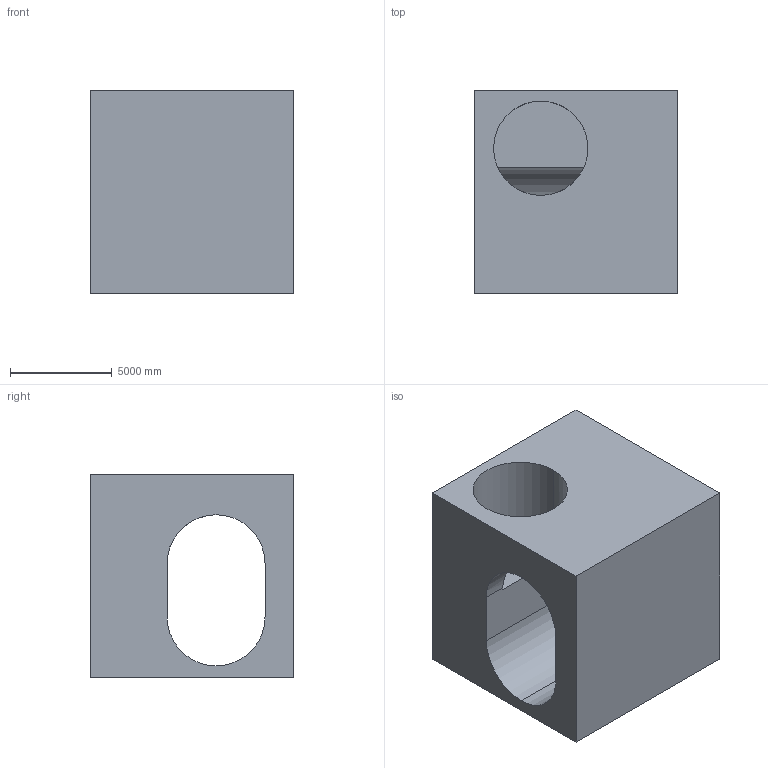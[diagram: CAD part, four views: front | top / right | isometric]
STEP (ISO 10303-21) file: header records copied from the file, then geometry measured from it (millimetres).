
FILE_DESCRIPTION (( 'STEP AP203' ), '1' );
FILE_NAME ('213.STEP', '2022-09-07T12:18:49', ( 'user' ), ( '' ), 'SwSTEP 2.0', 'SolidWorks 2021', '' );
FILE_SCHEMA (( 'CONFIG_CONTROL_DESIGN' ));
Length unit declared in the file: centimetre
Products named in the file (1): 213
Bounding box: 10000 x 10000 x 10000 mm (x, y, z)
Volume: 621774061229.6 mm3; surface area: 783203946.3 mm2
Topology: 1 solids, 1 shells, 14 faces, 39 edges, 26 vertices
Faces by surface type: plane 9, cylinder 5
Entity records: 726 total; most frequent: CARTESIAN_POINT 269, DIRECTION 79, ORIENTED_EDGE 78, EDGE_CURVE 39, LINE 27, VECTOR 27, AXIS2_PLACEMENT_3D 26, VERTEX_POINT 26
